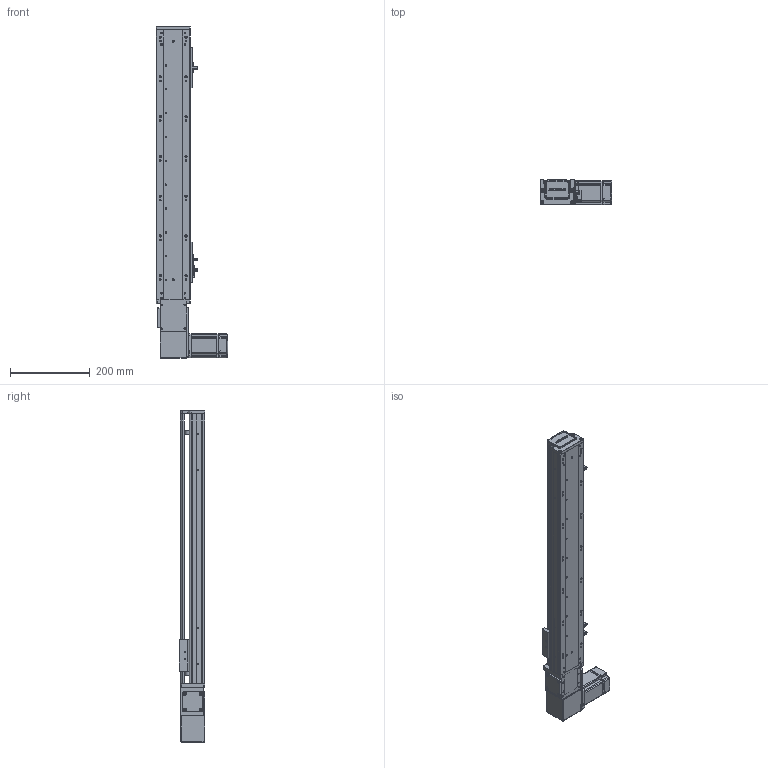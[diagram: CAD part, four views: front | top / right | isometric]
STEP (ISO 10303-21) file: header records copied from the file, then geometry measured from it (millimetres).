
FILE_DESCRIPTION (( 'STEP AP203' ), '1' );
FILE_NAME ('RY80-T-300-RK.SLDASM_500.step', '2021-03-01T02:06:35', ( '盈信电脑' ), ( '东莞市道滘镇水果街19号' ), 'SwSTEP 2.0', 'SolidWorks 2012', '' );
FILE_SCHEMA (( 'CONFIG_CONTROL_DESIGN' ));
Length unit declared in the file: millimetre
Products named in the file (20): RY100-T粣創揤踡裔; RY80-T肮祭謫俋欶; 滅袉蝶18-10; RY80-T-300-RK.SLDASM_500; RY80-T粣創揤踡輸; RY80-T-M4蹟翐; RY80-T翋肮祭謫裔啣; RY80-T肮祭湍揤輸2; RY80-T-翋肮祭謫釱; RY80-T萇儂假蚾啣; 侂狟200W萇儂; RY80-T肮祭湍揤輸1; 覜茼ん672; 1; RY80俋离覜茼え; 672嫖萇羲壽假蚾釱; RY80-T-300-RK倰第奻裔啣_500; RY80-T綴裔啣; RY80-T肮祭謫臏賑輸; RY80-T-300-RK倰第菁釱_500
Assembly tree (25 placements, depth 3):
  RY80-T-300-RK.SLDASM_500
    RY80-T-300-RK倰第菁釱_500
    RY80-T肮祭謫臏賑輸
    RY80-T-300-RK倰第奻裔啣_500
    RY80-T綴裔啣
    672嫖萇羲壽假蚾釱  x2
    覜茼ん672  x3
    RY80俋离覜茼え
    侂狟200W萇儂
      1
    RY80-T-翋肮祭謫釱
    RY80-T萇儂假蚾啣
    RY80-T肮祭湍揤輸1
    RY80-T肮祭湍揤輸2
    RY80-T粣創揤踡輸
    RY80-T-M4蹟翐  x2
    RY80-T翋肮祭謫裔啣  x2
    RY80-T肮祭謫俋欶
    滅袉蝶18-10  x2
    RY100-T粣創揤踡裔
Bounding box: 180 x 65 x 835 mm (x, y, z)
Volume: 1543071 mm3; surface area: 624836.6 mm2
Topology: 24 solids, 24 shells, 2476 faces, 6815 edges, 4429 vertices
Faces by surface type: plane 1334, cylinder 938, cone 148, bspline 56
Entity records: 77694 total; most frequent: CARTESIAN_POINT 18737, ORIENTED_EDGE 12074, DIRECTION 11366, EDGE_CURVE 6037, VERTEX_POINT 3970, AXIS2_PLACEMENT_3D 3819, VECTOR 3728, LINE 3728
